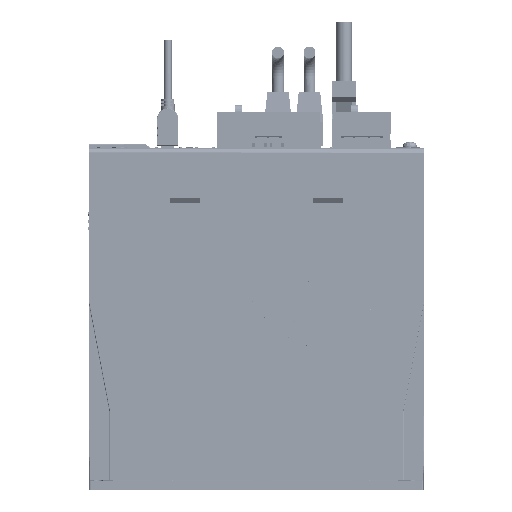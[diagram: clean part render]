
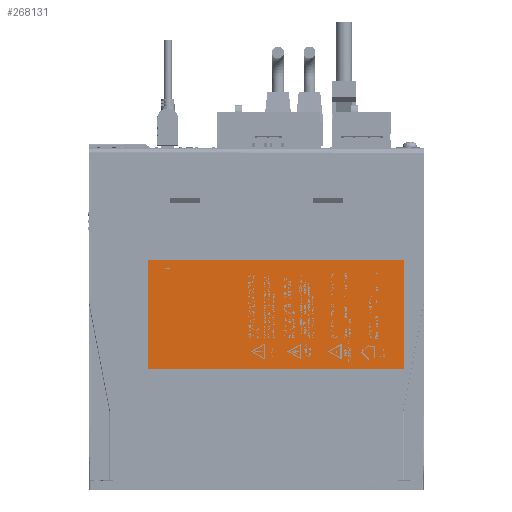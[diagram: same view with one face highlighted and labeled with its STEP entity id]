
A CAD part, left-side view. The second image highlights one B-rep face of the part: STEP entity #268131.
In plain terms, the highlighted planar face has unit normal (-1, 0, 0).
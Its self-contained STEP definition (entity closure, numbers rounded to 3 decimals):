
#249029=CARTESIAN_POINT('Line Origine',(-327.455,82.166,-47.9)) ;
#249033=CARTESIAN_POINT('Vertex',(-327.455,146.666,-47.9)) ;
#249035=CARTESIAN_POINT('Vertex',(-327.455,17.666,-47.9)) ;
#249060=CARTESIAN_POINT('Line Origine',(-327.455,17.666,-75.4)) ;
#249064=CARTESIAN_POINT('Vertex',(-327.455,17.666,-102.9)) ;
#249084=CARTESIAN_POINT('Line Origine',(-327.455,82.166,-102.9)) ;
#249088=CARTESIAN_POINT('Vertex',(-327.455,146.666,-102.9)) ;
#249108=CARTESIAN_POINT('Line Origine',(-327.455,146.666,-75.4)) ;
#268120=CARTESIAN_POINT('Axis2P3D Location',(-327.455,159.626,-108.46)) ;
#249030=DIRECTION('Vector Direction',(0.,-1.,0.)) ;
#249061=DIRECTION('Vector Direction',(0.,0.,-1.)) ;
#249085=DIRECTION('Vector Direction',(0.,1.,0.)) ;
#249109=DIRECTION('Vector Direction',(0.,0.,1.)) ;
#268121=DIRECTION('Axis2P3D Direction',(-1.,0.,0.)) ;
#268122=DIRECTION('Axis2P3D XDirection',(0.,0.,-1.)) ;
#268123=AXIS2_PLACEMENT_3D('Plane Axis2P3D',#268120,#268121,#268122) ;
#268126=ORIENTED_EDGE('',*,*,#249066,.F.) ;
#268127=ORIENTED_EDGE('',*,*,#249037,.F.) ;
#268128=ORIENTED_EDGE('',*,*,#249112,.F.) ;
#268129=ORIENTED_EDGE('',*,*,#249090,.F.) ;
#249031=VECTOR('Line Direction',#249030,1.) ;
#249062=VECTOR('Line Direction',#249061,1.) ;
#249086=VECTOR('Line Direction',#249085,1.) ;
#249110=VECTOR('Line Direction',#249109,1.) ;
#268131=ADVANCED_FACE('MANIFOLD_SOLID_BREP #3088',(#268130),#268124,.T.) ;
#249037=EDGE_CURVE('',#249034,#249036,#249032,.T.) ;
#249066=EDGE_CURVE('',#249036,#249065,#249063,.T.) ;
#249090=EDGE_CURVE('',#249065,#249089,#249087,.T.) ;
#249112=EDGE_CURVE('',#249089,#249034,#249111,.T.) ;
#268125=EDGE_LOOP('',(#268126,#268127,#268128,#268129)) ;
#268130=FACE_OUTER_BOUND('',#268125,.T.) ;
#249032=LINE('Line',#249029,#249031) ;
#249063=LINE('Line',#249060,#249062) ;
#249087=LINE('Line',#249084,#249086) ;
#249111=LINE('Line',#249108,#249110) ;
#268124=PLANE('',#268123) ;
#249034=VERTEX_POINT('',#249033) ;
#249036=VERTEX_POINT('',#249035) ;
#249065=VERTEX_POINT('',#249064) ;
#249089=VERTEX_POINT('',#249088) ;
